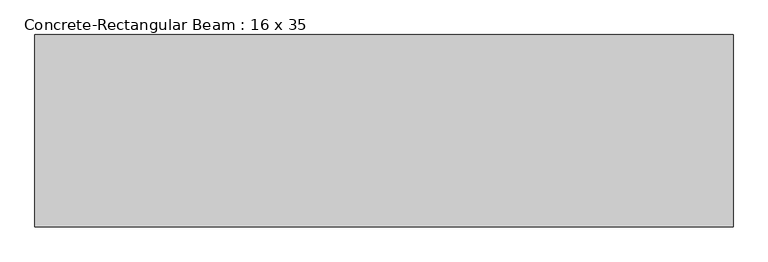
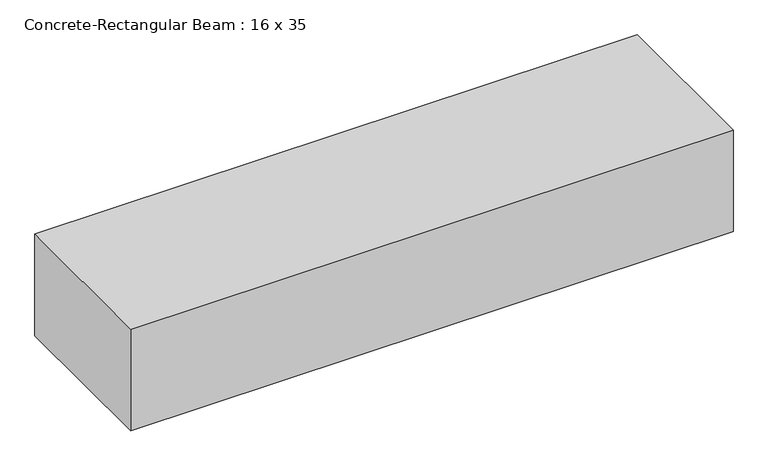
"""IFC4 building model written with IfcOpenShell, lengths in millimetres: beam geometry, Concrete-Rectangular Beam : 16 x 35."""

from ifc_helpers import new_model, si_unit, frame, origin, place, context, project, spatial, polyline, outline, extrude, source, transform, mapped, element, save


def concrete_rectangular_beam_16_x_35_8daca9ba(model_context):
    return source(origin(), model_context, "Body", "SweptSolid", [
        extrude(outline(polyline([(1597.2972627, 440.134375), (1597.2972627, -440.134375), (-1597.2972627, -440.134375), (-1597.2972627, 440.134375), (1597.2972627, 440.134375)])), frame((0.0, 0.0, -284.95625), z_axis=(0.0, 0.0, 1.0), x_axis=(1.0, 0.0, 0.0)), (0.0, 0.0, 1.0), 569.9125),
    ])


if __name__ == "__main__":
    model = new_model("IFC4")
    model_context = context("Model", 3, world=origin())
    ifc_project = project(units=[si_unit("LENGTHUNIT", "METRE", prefix="MILLI")], contexts=[model_context])
    site = spatial("IfcSite", under=ifc_project)
    building = spatial("IfcBuilding", under=site)
    placement = place(None, origin())
    concrete_rectangular_beam_16_x_35_shape = concrete_rectangular_beam_16_x_35_8daca9ba(model_context)
    element("IfcBeam", 1, ObjectType="Concrete-Rectangular Beam : 16 x 35", at=placement, inside=building, context=model_context, shape_type="MappedRepresentation", body=[
        mapped(concrete_rectangular_beam_16_x_35_shape, transform((0.0, 0.0, 0.0), x_axis=(1.0, 0.0, 0.0), y_axis=(0.0, 1.0, 0.0), z_axis=(0.0, 0.0, 1.0))),
    ])
    save(model, "model.ifc")
